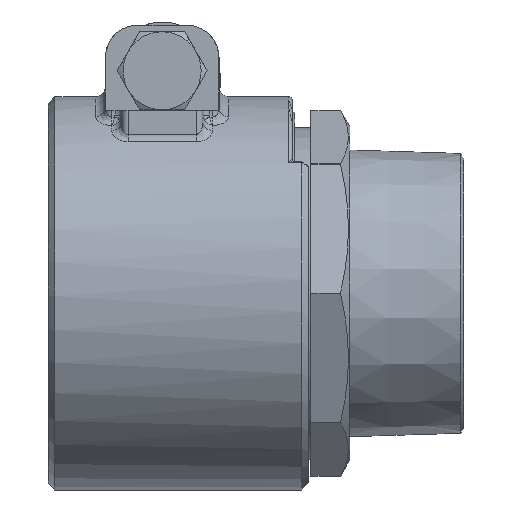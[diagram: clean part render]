
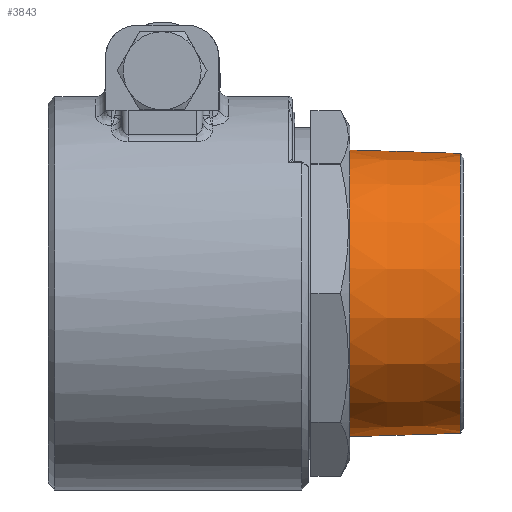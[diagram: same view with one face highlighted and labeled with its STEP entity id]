
A CAD part, left-side view. The second image highlights one B-rep face of the part: STEP entity #3843.
In plain terms, the highlighted conical face has half-angle 1.783 degrees and reference radius 43.045 mm.
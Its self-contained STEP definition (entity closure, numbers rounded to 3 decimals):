
#199 = AXIS2_PLACEMENT_3D ( 'NONE', #849, #847, #843 ) ;
#200 = CONICAL_SURFACE ( 'NONE', #199, 43.045, 0.031 ) ;
#419 = VECTOR ( 'NONE', #8409, 1000. ) ;
#502 = VECTOR ( 'NONE', #8402, 1000. ) ;
#602 = EDGE_CURVE ( 'NONE', #4225, #4222, #8397, .T. ) ;
#604 = EDGE_CURVE ( 'NONE', #4218, #4207, #8405, .T. ) ;
#843 = DIRECTION ( 'NONE',  ( 0., 0., 1. ) ) ;
#846 = FACE_OUTER_BOUND ( 'NONE', #10055, .T. ) ;
#847 = DIRECTION ( 'NONE',  ( 0., 1., 0. ) ) ;
#849 = CARTESIAN_POINT ( 'NONE',  ( 0., 1.05, 0. ) ) ;
#1772 = CARTESIAN_POINT ( 'NONE',  ( 0., 35., -44.102 ) ) ;
#1783 = CARTESIAN_POINT ( 'NONE',  ( 0., 1.05, -43.045 ) ) ;
#1787 = CARTESIAN_POINT ( 'NONE',  ( 0., 35., 44.102 ) ) ;
#1790 = CARTESIAN_POINT ( 'NONE',  ( 0., 1.05, 43.045 ) ) ;
#3843 = ADVANCED_FACE ( 'NONE', ( #846 ), #200, .T. ) ;
#4207 = VERTEX_POINT ( 'NONE', #1772 ) ;
#4218 = VERTEX_POINT ( 'NONE', #1783 ) ;
#4222 = VERTEX_POINT ( 'NONE', #1787 ) ;
#4225 = VERTEX_POINT ( 'NONE', #1790 ) ;
#7881 = CIRCLE ( 'NONE', #7884, 43.045 ) ;
#7883 = CIRCLE ( 'NONE', #7886, 44.102 ) ;
#7884 = AXIS2_PLACEMENT_3D ( 'NONE', #14542, #14543, #14544 ) ;
#7886 = AXIS2_PLACEMENT_3D ( 'NONE', #14545, #14546, #14547 ) ;
#8395 = CARTESIAN_POINT ( 'NONE',  ( 0., 1.05, 43.045 ) ) ;
#8397 = LINE ( 'NONE', #8395, #502 ) ;
#8401 = CARTESIAN_POINT ( 'NONE',  ( 0., 1.05, -43.045 ) ) ;
#8402 = DIRECTION ( 'NONE',  ( 0., 1., 0.031 ) ) ;
#8405 = LINE ( 'NONE', #8401, #419 ) ;
#8409 = DIRECTION ( 'NONE',  ( 0., 1., -0.031 ) ) ;
#10055 = EDGE_LOOP ( 'NONE', ( #11072, #11073, #11074, #11075 ) ) ;
#11072 = ORIENTED_EDGE ( 'NONE', *, *, #604, .F. ) ;
#11073 = ORIENTED_EDGE ( 'NONE', *, *, #12921, .F. ) ;
#11074 = ORIENTED_EDGE ( 'NONE', *, *, #602, .T. ) ;
#11075 = ORIENTED_EDGE ( 'NONE', *, *, #12922, .T. ) ;
#12921 = EDGE_CURVE ( 'NONE', #4225, #4218, #7881, .T. ) ;
#12922 = EDGE_CURVE ( 'NONE', #4222, #4207, #7883, .T. ) ;
#14542 = CARTESIAN_POINT ( 'NONE',  ( 0., 1.05, 0. ) ) ;
#14543 = DIRECTION ( 'NONE',  ( 0., -1., 0. ) ) ;
#14544 = DIRECTION ( 'NONE',  ( 0., 0., -1. ) ) ;
#14545 = CARTESIAN_POINT ( 'NONE',  ( 0., 35., 0. ) ) ;
#14546 = DIRECTION ( 'NONE',  ( 0., -1., 0. ) ) ;
#14547 = DIRECTION ( 'NONE',  ( 0., 0., -1. ) ) ;
